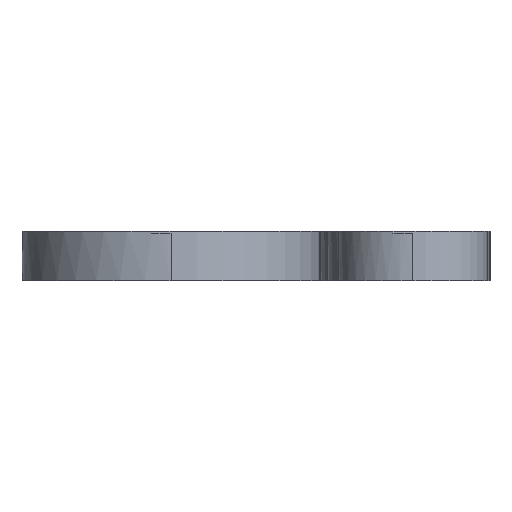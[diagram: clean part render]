
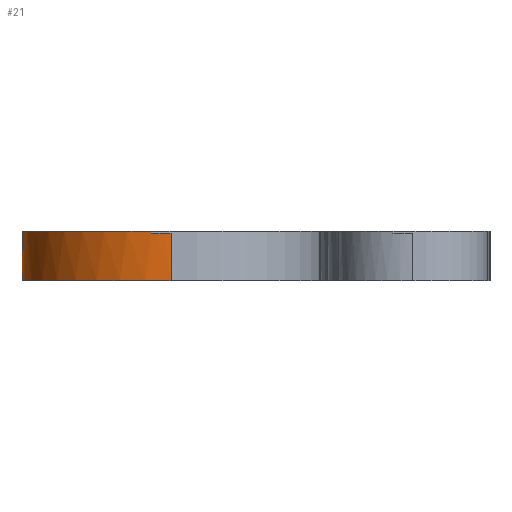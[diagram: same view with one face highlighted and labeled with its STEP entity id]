
A CAD part, left-side view. The second image highlights one B-rep face of the part: STEP entity #21.
In plain terms, the highlighted cylindrical face has radius 19.05 mm (diameter 38.1 mm), a partial arc.
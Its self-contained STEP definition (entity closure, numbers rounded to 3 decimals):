
#21 = ADVANCED_FACE ( 'NONE', ( #3330 ), #3304, .T. ) ;
#22 = ORIENTED_EDGE ( 'NONE', *, *, #28, .T. ) ;
#23 = VERTEX_POINT ( 'NONE', #3313 ) ;
#24 = ORIENTED_EDGE ( 'NONE', *, *, #32, .F. ) ;
#26 = EDGE_LOOP ( 'NONE', ( #24, #22, #340, #103, #341, #339 ) ) ;
#27 = VERTEX_POINT ( 'NONE', #3311 ) ;
#28 = EDGE_CURVE ( 'NONE', #23, #27, #3310, .T. ) ;
#31 = VERTEX_POINT ( 'NONE', #3305 ) ;
#32 = EDGE_CURVE ( 'NONE', #23, #31, #3187, .T. ) ;
#98 = EDGE_CURVE ( 'NONE', #106, #31, #3391, .T. ) ;
#102 = EDGE_CURVE ( 'NONE', #263, #265, #3510, .T. ) ;
#103 = ORIENTED_EDGE ( 'NONE', *, *, #102, .F. ) ;
#105 = EDGE_CURVE ( 'NONE', #106, #263, #3506, .T. ) ;
#106 = VERTEX_POINT ( 'NONE', #3502 ) ;
#263 = VERTEX_POINT ( 'NONE', #3534 ) ;
#264 = EDGE_CURVE ( 'NONE', #27, #265, #3533, .T. ) ;
#265 = VERTEX_POINT ( 'NONE', #3528 ) ;
#339 = ORIENTED_EDGE ( 'NONE', *, *, #98, .T. ) ;
#340 = ORIENTED_EDGE ( 'NONE', *, *, #264, .T. ) ;
#341 = ORIENTED_EDGE ( 'NONE', *, *, #105, .F. ) ;
#3183 = DIRECTION ( 'NONE',  ( 1., 0., 0. ) ) ;
#3184 = DIRECTION ( 'NONE',  ( 0., 0., 1. ) ) ;
#3185 = CARTESIAN_POINT ( 'NONE',  ( -10.886, 0., 6.35 ) ) ;
#3186 = AXIS2_PLACEMENT_3D ( 'NONE', #3185, #3184, #3183 ) ;
#3187 = CIRCLE ( 'NONE', #3186, 19.05 ) ;
#3202 = CARTESIAN_POINT ( 'NONE',  ( -10.886, 0., 6.35 ) ) ;
#3303 = AXIS2_PLACEMENT_3D ( 'NONE', #3202, #3315, #3314 ) ;
#3304 = CYLINDRICAL_SURFACE ( 'NONE', #3303, 19.05 ) ;
#3305 = CARTESIAN_POINT ( 'NONE',  ( -29.766, 2.54, 6.35 ) ) ;
#3310 = LINE ( 'NONE', #3334, #3333 ) ;
#3311 = CARTESIAN_POINT ( 'NONE',  ( 8.164, 0., 0. ) ) ;
#3313 = CARTESIAN_POINT ( 'NONE',  ( 8.164, 0., 6.35 ) ) ;
#3314 = DIRECTION ( 'NONE',  ( -1., 0., 0. ) ) ;
#3315 = DIRECTION ( 'NONE',  ( 0., 0., -1. ) ) ;
#3330 = FACE_OUTER_BOUND ( 'NONE', #26, .T. ) ;
#3332 = DIRECTION ( 'NONE',  ( 0., 0., -1. ) ) ;
#3333 = VECTOR ( 'NONE', #3332, 1000. ) ;
#3334 = CARTESIAN_POINT ( 'NONE',  ( 8.164, 0., 6.35 ) ) ;
#3382 = DIRECTION ( 'NONE',  ( 0., 0., 1. ) ) ;
#3383 = VECTOR ( 'NONE', #3382, 1000. ) ;
#3384 = CARTESIAN_POINT ( 'NONE',  ( -29.766, 2.54, 6.35 ) ) ;
#3391 = LINE ( 'NONE', #3384, #3383 ) ;
#3502 = CARTESIAN_POINT ( 'NONE',  ( -29.766, 2.54, 6.096 ) ) ;
#3503 = DIRECTION ( 'NONE',  ( 1., 0., 0. ) ) ;
#3504 = DIRECTION ( 'NONE',  ( 0., 0., 1. ) ) ;
#3505 = AXIS2_PLACEMENT_3D ( 'NONE', #3511, #3504, #3503 ) ;
#3506 = CIRCLE ( 'NONE', #3505, 19.05 ) ;
#3507 = DIRECTION ( 'NONE',  ( 0., 0., -1. ) ) ;
#3508 = VECTOR ( 'NONE', #3507, 1000. ) ;
#3509 = CARTESIAN_POINT ( 'NONE',  ( -29.936, 0., 6.35 ) ) ;
#3510 = LINE ( 'NONE', #3509, #3508 ) ;
#3511 = CARTESIAN_POINT ( 'NONE',  ( -10.886, 0., 6.096 ) ) ;
#3528 = CARTESIAN_POINT ( 'NONE',  ( -29.936, 0., 0. ) ) ;
#3529 = DIRECTION ( 'NONE',  ( 1., 0., 0. ) ) ;
#3530 = DIRECTION ( 'NONE',  ( 0., 0., 1. ) ) ;
#3531 = CARTESIAN_POINT ( 'NONE',  ( -10.886, 0., 0. ) ) ;
#3532 = AXIS2_PLACEMENT_3D ( 'NONE', #3531, #3530, #3529 ) ;
#3533 = CIRCLE ( 'NONE', #3532, 19.05 ) ;
#3534 = CARTESIAN_POINT ( 'NONE',  ( -29.936, 0., 6.096 ) ) ;
